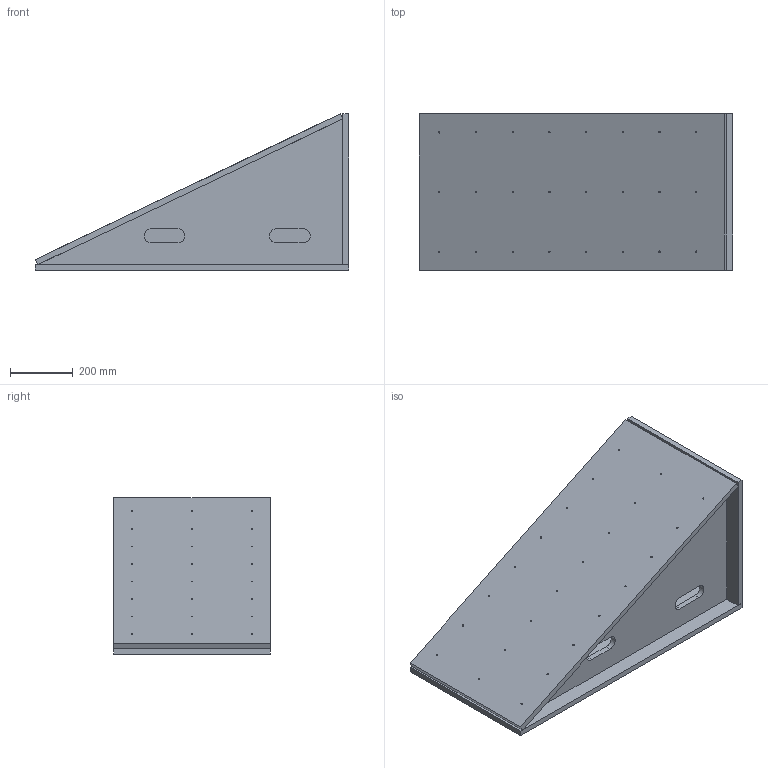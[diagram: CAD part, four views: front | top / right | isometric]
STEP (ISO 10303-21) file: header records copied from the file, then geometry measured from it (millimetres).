
FILE_DESCRIPTION(('Open CASCADE Model'),'2;1');
FILE_NAME('Open CASCADE Shape Model','2026-09-27T16:12:29',('Author'),( 'Open CASCADE'),'Open CASCADE STEP processor 7.9','Open CASCADE 7.9' ,'Unknown');
FILE_SCHEMA(('AUTOMOTIVE_DESIGN { 1 0 10303 214 1 1 1 1 }'));
Length unit declared in the file: millimetre
Products named in the file (7): triangle_1000; P01; P02; P03; P04; P05; R01
Assembly tree (6 placements, depth 2):
  triangle_1000
    P01
    P02
    P03
    P04
    P05
    R01
Bounding box: 1000 x 500 x 500 mm (x, y, z)
Volume: 34905977.3 mm3; surface area: 4262814 mm2
Topology: 6 solids, 6 shells, 193 faces, 543 edges, 362 vertices
Faces by surface type: plane 161, cylinder 32
Full cylindrical faces by diameter (mm): 4.5 x24
Entity records: 13390 total; most frequent: CARTESIAN_POINT 2711, DIRECTION 1773, LINE 1221, VECTOR 1221, ORIENTED_EDGE 1086, PCURVE 1086, DEFINITIONAL_REPRESENTATION 1086, EDGE_CURVE 543
